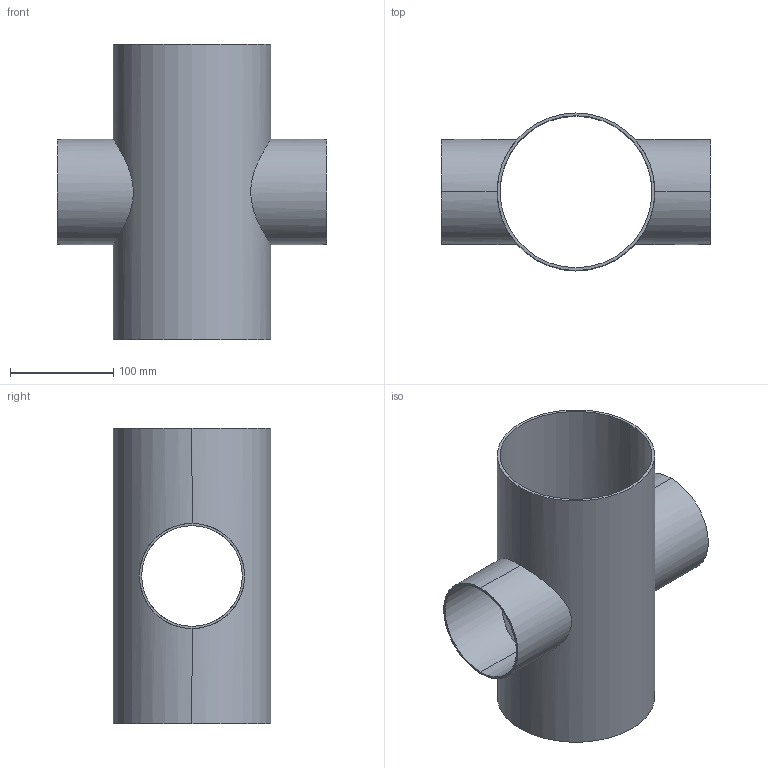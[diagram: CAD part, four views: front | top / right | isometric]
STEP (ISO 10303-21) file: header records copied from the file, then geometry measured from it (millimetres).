
FILE_DESCRIPTION (( 'STEP AP214' ), '1' );
FILE_NAME ('TE9RWWWW6L6.0x4.0-...STEP', '2016-05-22T04:49:57', ( 'eran' ), ( '' ), 'SwSTEP 2.0', 'SolidWorks 2016', '' );
FILE_SCHEMA (( 'AUTOMOTIVE_DESIGN' ));
Length unit declared in the file: millimetre
Products named in the file (1): TE9RWWWW6L6.0x4.0-..
Bounding box: 260.35 x 152.4 x 285.75 mm (x, y, z)
Volume: 410904.6 mm3; surface area: 319952 mm2
Topology: 1 solids, 1 shells, 16 faces, 40 edges, 24 vertices
Faces by surface type: cylinder 12, plane 4
Entity records: 1086 total; most frequent: CARTESIAN_POINT 661, DIRECTION 82, ORIENTED_EDGE 80, EDGE_CURVE 40, AXIS2_PLACEMENT_3D 33, VERTEX_POINT 24, EDGE_LOOP 20, LINE 16
